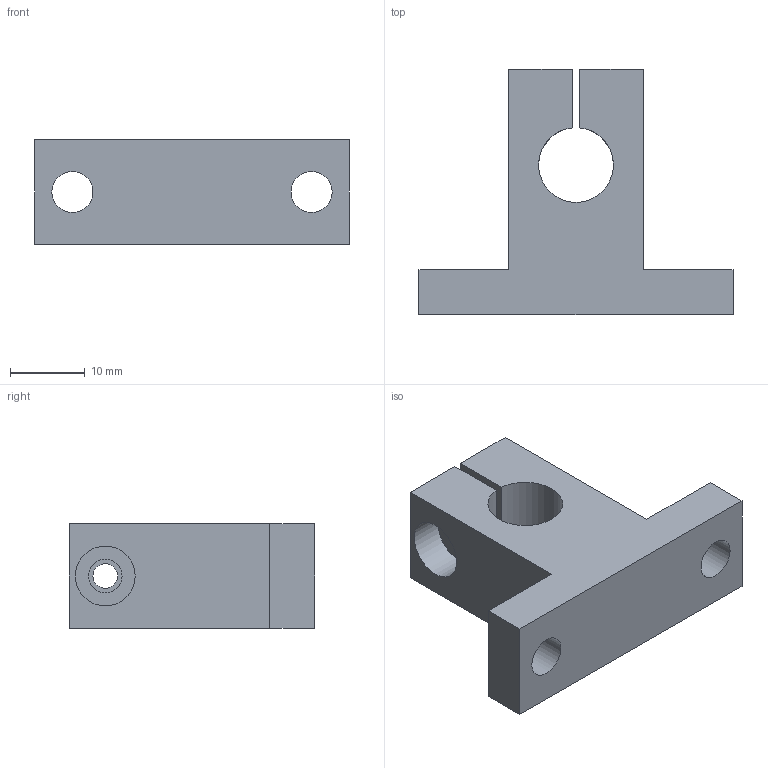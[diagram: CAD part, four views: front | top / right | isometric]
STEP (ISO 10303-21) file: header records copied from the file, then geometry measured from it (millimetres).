
FILE_DESCRIPTION(/* description */ ('Unknown'),/* implementation_level */ '2;1');
FILE_NAME(/* name */ 'SK10',/* time_stamp */ '2025-02-03T17:55:06+08:00',/* author */ ('Unknown'),/* organization */ ('Unknown'),/* preprocessor_version */ 'ST-DEVELOPER v18.102',/* originating_system */ 'Solid Edge',/* authorisation */ 'Unknown');
FILE_SCHEMA (('AUTOMOTIVE_DESIGN {1 0 10303 214 3 1 1}'));
Length unit declared in the file: millimetre
Products named in the file (1): SK10
Bounding box: 42 x 32.8 x 14 mm (x, y, z)
Volume: 8425.1 mm3; surface area: 4342.6 mm2
Topology: 1 solids, 1 shells, 20 faces, 53 edges, 36 vertices
Faces by surface type: plane 14, cylinder 6
Full cylindrical faces by diameter (mm): 3.3 x1, 4.5 x1, 5.5 x2, 8 x1
Entity records: 628 total; most frequent: CARTESIAN_POINT 101, DIRECTION 100, ORIENTED_EDGE 92, EDGE_CURVE 46, VERTEX_POINT 34, LINE 34, VECTOR 34, EDGE_LOOP 34
